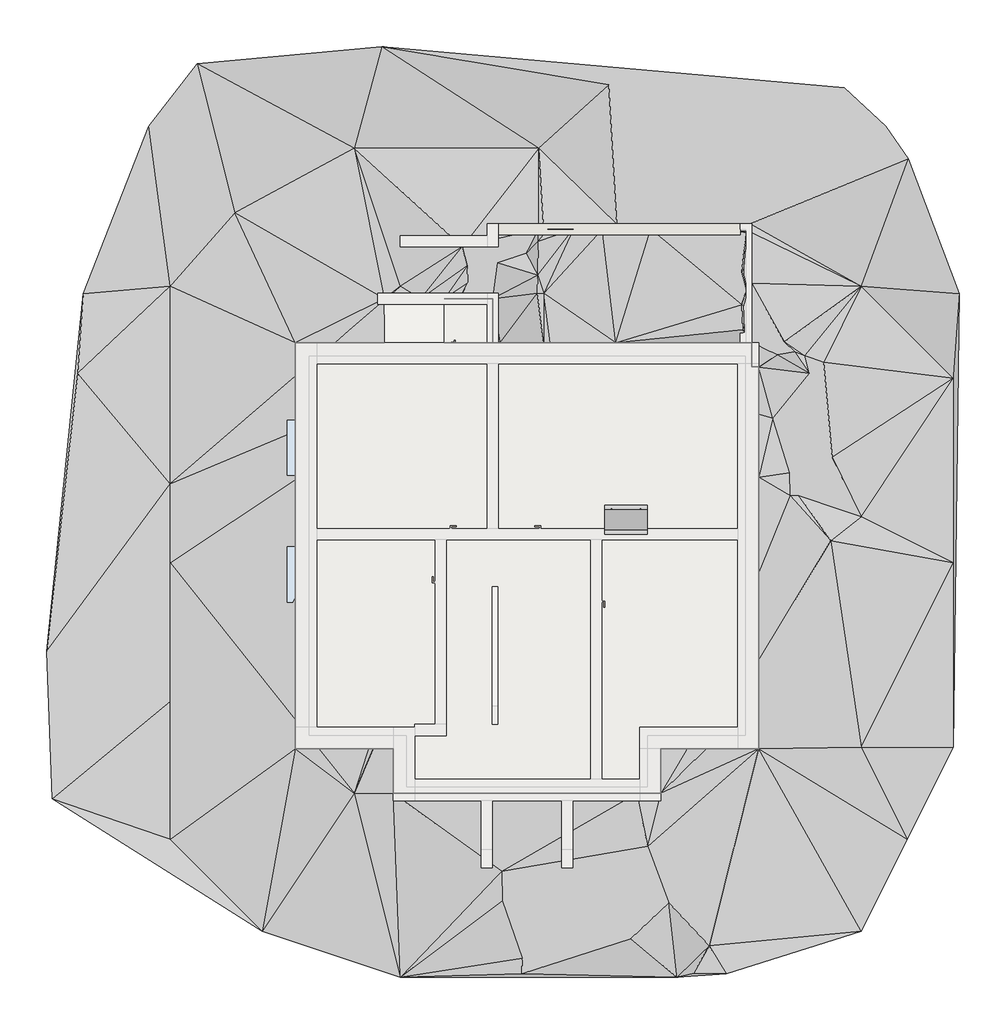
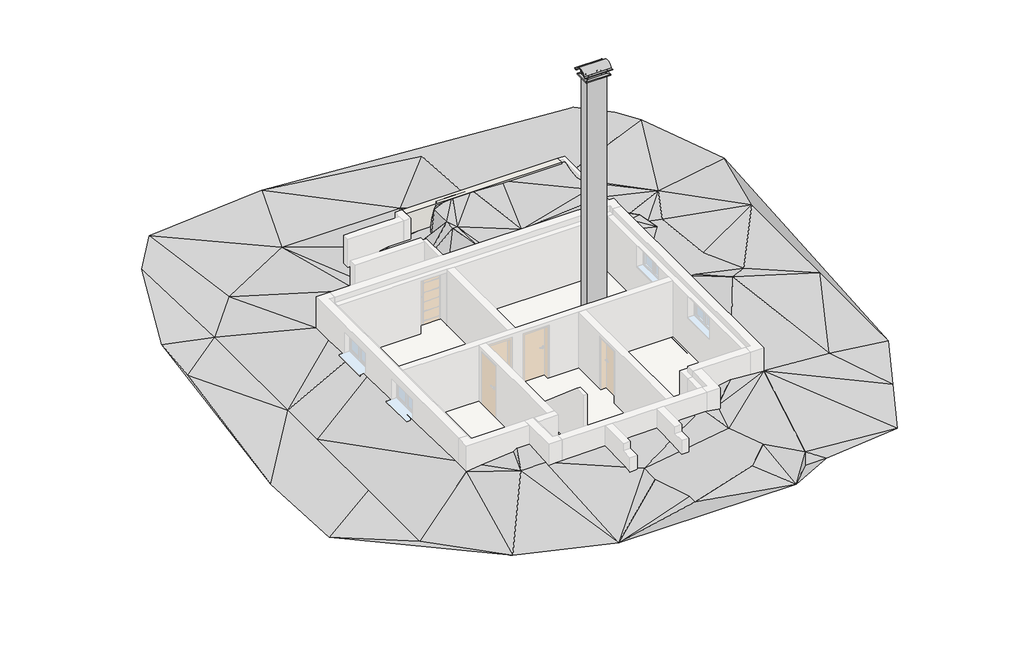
# Not in any storey, part 2 of 2: 8 footings, 4 proxies, 4 slabs, 1 wall.
"""IFC4 building model written with IfcOpenShell, lengths in millimetres."""

from ifc_helpers import new_model, si_unit, frame, origin, place, context, project, spatial, polyline, outline, extrude, faceted_brep, triangles, transform, mapped, element, save
from components import proxy_360_x_650_x_6000_d_140_bfd82147

model = new_model("IFC4")

# Units and contexts
model_context = context("Model", 3, world=origin())
ifc_project = project(units=[si_unit("LENGTHUNIT", "METRE", prefix="MILLI")], contexts=[model_context])

# Site, building
site = spatial("IfcSite", under=ifc_project)
building = spatial("IfcBuilding", under=site)

# Proxies
placement = place(None, origin())
element("IfcBuildingElementProxy", 1, Name="Building Element Proxy", at=placement, inside=building, context=model_context, shape_type="Tessellation", body=[
    triangles([(-3006.145578, -3000.0000229, -246.6645224), (-6.1454637, -4000.0000305, -246.6645224), (5993.8544907, -4000.0000305, -246.6645224), (7061.4567673, -3919.3439072, 253.3354633), (9993.8551025, -3000.0000229, -246.6645224), (10993.8545288, -1000.0000076, -246.6645224), (11993.8539551, 1000.0000076, -246.6645224), (12126.3923767, 10842.9381592, 253.3354633), (11017.1356659, 13770.1420441, 253.3354633), (10524.1332001, 14478.83367, 253.3354633), (9630.5656494, 15310.7759125, 253.3354633), (-414.3653326, 16204.3434631, 253.3354633), (-4420.0127655, 15834.5916138, 253.3354633), (-5467.6435867, 14478.83367, 253.3354633), (-6885.0262573, 10842.9381592, 253.3354633), (-7686.1558456, 3078.1455437, 253.3354633), (-7562.9052292, -126.3724099, 253.3354633), (-360.00001, 10735.0005615, -17.456672), (-315.0049367, 10735.0005615, -15.2369356), (431.2891906, 10735.0005615, 52.2442811), (950.5286087, 10735.0005615, 154.1045835), (1456.3643028, 10735.0005615, 253.3354633), (1995.0000298, 10735.0005615, 253.3354633), (1995.0000298, 9900.8386871, 253.3354633), (1995.0000298, 9787.696756, 239.0034711), (1995.0000298, 9774.9998566, 239.6115008), (2015.9581982, 9774.9998566, 241.5065705), (2076.2566978, 9774.9998566, 253.3354633), (2107.9412464, 9774.9998566, 253.3354633), (2159.8415668, 9774.9998566, 290.0020297), (3090.5494377, 9774.9998566, 993.5483665), (3108.854425, 9774.9998566, 993.5483665), (3250.6015869, 9774.9998566, 996.9465603), (4668.7504898, 9774.9998566, 981.9242214), (7614.9997238, 9774.9998566, 257.4633182), (7614.9997238, 9249.9999252, 198.8656776), (7773.6202744, 9249.9999252, 172.0674587), (7774.9998413, 9249.9999252, 172.1872188), (7774.9998413, 9244.8932602, 171.2769728), (7774.9998413, 8227.3228134, 60.2049325), (7774.9998413, 8161.2344055, 63.3962757), (7774.9998413, 6854.0827972, 126.5171322), (7774.9998413, 4790.6776405, 55.418733), (7774.9998413, 2879.2989601, 253.3354633), (7774.9998413, 964.9999638, 166.4804451), (6628.3320419, 964.9999638, 253.3354633), (6220.6929703, 964.9999638, 182.8688161), (5649.9998978, 964.9999638, 278.065004), (5649.9998978, 0.0, 244.8141629), (5120.6595337, 0.0, 333.1124434), (-160.0000085, 0.0, 264.3531047), (-160.0000085, 964.9999638, 333.9137389), (-593.1475522, 964.9999638, 328.2737125), (-696.1192102, 964.9999638, 253.3354633), (-1778.1455338, 964.9999638, 156.8354669), (-2285.000061, 964.9999638, 93.478651), (-2285.000061, 1598.5681229, 93.478651), (-2285.000061, 6801.704599, -55.6035918), (-2285.000061, 7858.2906876, -55.6035918), (-2285.000061, 9044.7531509, -112.4225165), (-2285.000061, 9774.9998566, -112.4225165), (-1433.892128, 9774.9998566, -70.4348904), (-360.00001, 9774.9998566, 26.6683032), (-360.00001, 10696.3947784, -17.456672), (-1006.1454901, 0.0, 253.3354633), (9993.8551025, 1000.0000076, 0.0), (9993.8551025, 6000.0000458, 0.0), (-6.1454637, 10999.9995026, 0.0), (2993.8544678, 14000.0001068, -246.6645224), (-1006.1454901, 14000.0001068, -246.6645224), (-3596.3679817, 12597.6647736, -246.6645224), (-5006.1455933, 10999.9995026, -246.6645224), (-5006.1455933, 6710.0229858, -246.6645224), (-5006.1455933, 5000.0000381, -246.6645224), (-5006.1455933, 2000.0000153, -246.6645224), (-5006.1455933, -1000.0000076, -246.6645224), (11993.8539551, 5000.0000381, -246.6645224), (11993.8539551, 9000.0000687, -246.6645224), (9993.8551025, 10999.9995026, -246.6645224), (5993.8544907, 12999.9995178, 253.3354633), (-7008.2768738, 9117.4289474, 253.3354633), (4515.6621597, 15372.4012207, 253.3354633), (2988.8544823, 12234.9997009, 253.3354633), (7614.9997238, 12160.4635529, 253.3354633), (7631.7870712, 9774.9998566, 253.3354633), (1338.8544697, 10855.0002136, 253.3354633), (1338.8544697, 11854.9996399, 253.3354633), (2988.8544823, 11975.0004547, 950.0000072), (3108.854425, 12115.0000488, 950.0000072), (7492.3263977, 12022.9533417, 950.0000072), (3108.854425, 10855.0002136, 950.0000072), (7423.7282593, 10057.5802826, 950.0000072), (7404.1846848, 10597.2531555, 950.0000072), (7495.0000717, 10924.9994293, 950.0000072), (7404.1846848, 11304.0809418, 950.0000072), (7441.4963608, 11756.530069, 950.0000072), (7495.0000717, 12160.4635529, 950.0000072), (7028.1617065, 12234.9997009, 950.0000072), (6305.688945, 12234.9997009, 950.0000072), (5429.9644913, 12234.9997009, 950.0000072), (4379.0949142, 12234.9997009, 1000.0000076), (3744.1947144, 12234.9997009, 1000.0000076), (3196.8667854, 12234.9997009, 1000.0000076), (2977.935672, 11238.4012299, 950.0000072), (2966.9892471, 10855.0002136, 950.0000072), (3098.3477989, 12355.0005157, 253.3354633), (3744.1947144, 12355.0005157, 253.3354633), (4685.5985893, 12355.0005157, 253.3354633), (5473.7507721, 12355.0005157, 253.3354633), (6535.566774, 12355.0005157, 253.3354633), (6152.4372528, 12355.0005157, 253.3354633), (7028.1617065, 12355.0005157, 253.3354633), (7586.4357697, 12355.0005157, 253.3354633), (7614.9997238, 11692.0979553, 253.3354633), (7614.9997238, 11065.0001862, 253.3354633), (7585.764299, 10444.7426971, 253.3354633), (7614.9997238, 9973.5807587, 253.3354633), (1895.1187717, 11605.1137299, 253.3354633), (1445.4177326, 11446.3850464, 253.3354633), (1456.3643028, 11074.2031128, 253.3354633), (1456.3643028, 10855.0002136, 253.3354633), (1686.9199974, 11605.992746, 253.3354633), (1968.3868286, 11433.7613983, 253.3354633), (2726.225164, 11721.4705811, 253.3354633), (2099.5658855, 11506.7139221, 253.3354633), (2190.9571095, -1694.2166451, 253.3354633), (2199.5246098, -2336.860849, 253.3354633), (2689.1108597, -3274.9166725, 253.3354633), (2636.3597191, -3586.0633781, 253.3354633), (2632.0335297, -3918.1785713, 253.3354633), (5361.3227509, -1150.202104, 253.3354633), (5815.377594, -2377.8185234, 253.3354633), (6698.8341339, -3312.1678871, 253.3354633), (6356.5811874, -3904.5529495, 253.3354633), (4998.5309418, -3156.7753372, 253.3354633), (3926.7071205, -2866.923262, 253.3354633), (3578.0281128, -2977.3252441, 253.3354633), (8642.3195755, 6453.7310715, 0.0), (8441.3254486, 6956.0079712, 0.0), (9331.5658768, 5477.8993561, 253.3354633), (9369.5280945, 7295.7924637, 0.0), (8073.9217117, 8138.425914, 0.0), (8450.8545181, 6454.1856949, 0.0), (8864.3833466, 9109.9997498, 0.0), (8170.5448837, 9512.647847, 253.3354633), (9004.4032883, 9330.2990936, 0.0), (9186.7886673, 9354.9877029, 0.0), (8327.129512, 9797.0833923, 253.3354633), (8767.2892731, 9493.1920578, 0.0), (8548.4846054, 9575.4945923, 253.3354633)], [[75, 76, 56], [1, 76, 17], [17, 75, 16], [75, 17, 76], [76, 1, 56], [56, 65, 55], [65, 56, 1], [54, 55, 65], [65, 53, 54], [56, 57, 75], [1, 2, 65], [75, 57, 74], [16, 74, 73], [16, 75, 74], [72, 81, 73], [73, 81, 16], [74, 58, 73], [16, 81, 15], [59, 60, 73], [73, 60, 72], [18, 61, 62], [73, 58, 59], [57, 58, 74], [72, 60, 61], [2, 126, 51], [126, 2, 127], [52, 53, 51], [53, 65, 51], [51, 126, 50], [51, 65, 2], [129, 127, 2], [129, 130, 137], [127, 128, 137], [128, 127, 129], [137, 128, 129], [127, 137, 126], [130, 135, 137], [129, 2, 130], [2, 3, 130], [27, 25, 26], [28, 24, 27], [29, 30, 24], [31, 32, 91], [31, 105, 30], [28, 29, 24], [62, 63, 64], [91, 33, 34], [91, 32, 33], [18, 71, 61], [62, 64, 18], [68, 18, 19], [72, 15, 81], [21, 22, 86], [20, 21, 119], [86, 22, 121], [86, 121, 120], [19, 20, 68], [121, 23, 120], [120, 21, 86], [72, 71, 14], [71, 18, 70], [71, 13, 14], [13, 71, 70], [13, 70, 12], [61, 71, 72], [72, 14, 15], [119, 87, 20], [119, 21, 120], [70, 69, 12], [68, 20, 87], [87, 119, 122], [69, 70, 87], [120, 123, 119], [87, 70, 68], [68, 70, 18], [121, 22, 23], [24, 30, 23], [23, 123, 120], [118, 123, 125], [123, 122, 119], [23, 125, 123], [104, 23, 105], [105, 23, 30], [104, 125, 23], [104, 105, 91], [104, 91, 102], [118, 125, 124], [31, 91, 105], [24, 25, 27], [118, 122, 123], [124, 125, 104], [83, 87, 118], [83, 118, 124], [83, 106, 69], [89, 83, 88], [69, 87, 83], [88, 83, 124], [104, 88, 124], [87, 122, 118], [103, 106, 83], [103, 89, 102], [103, 107, 106], [107, 103, 102], [107, 102, 101], [106, 107, 69], [89, 88, 102], [103, 83, 89], [104, 102, 88], [69, 107, 108], [102, 91, 101], [12, 69, 82], [136, 126, 137], [136, 135, 131], [136, 137, 135], [131, 50, 126], [131, 45, 49], [131, 135, 132], [50, 131, 49], [3, 4, 134], [3, 133, 132], [133, 3, 134], [133, 134, 4], [46, 49, 45], [132, 45, 131], [3, 132, 135], [130, 3, 135], [133, 45, 132], [47, 48, 49], [47, 49, 46], [41, 42, 142], [36, 37, 85], [42, 43, 143], [5, 133, 4], [140, 44, 66], [140, 67, 138], [77, 67, 140], [66, 44, 45], [140, 143, 43], [6, 66, 45], [66, 7, 77], [7, 66, 6], [78, 77, 8], [66, 77, 140], [6, 45, 5], [45, 133, 5], [67, 77, 78], [144, 39, 142], [142, 40, 41], [142, 39, 40], [145, 38, 39], [142, 139, 141], [42, 139, 142], [138, 141, 139], [138, 143, 140], [147, 144, 141], [144, 142, 141], [141, 138, 67], [145, 39, 144], [67, 78, 141], [139, 143, 138], [143, 139, 42], [78, 147, 141], [77, 7, 8], [43, 44, 140], [37, 38, 85], [100, 34, 93], [93, 34, 92], [93, 95, 99], [34, 100, 101], [93, 94, 95], [101, 91, 34], [95, 114, 96], [116, 93, 92], [98, 96, 90], [114, 90, 96], [84, 97, 90], [98, 95, 96], [94, 115, 95], [116, 94, 93], [97, 98, 90], [108, 100, 109], [100, 108, 101], [108, 80, 82], [80, 108, 109], [111, 80, 109], [11, 82, 80], [109, 100, 111], [82, 69, 108], [99, 98, 110], [98, 99, 95], [110, 112, 80], [110, 111, 99], [112, 110, 98], [110, 80, 111], [98, 97, 112], [99, 111, 100], [100, 93, 99], [112, 113, 80], [112, 97, 113], [108, 107, 101], [36, 85, 35], [34, 35, 92], [148, 117, 85], [85, 117, 35], [85, 145, 148], [117, 116, 92], [146, 147, 149], [147, 146, 144], [148, 150, 149], [150, 148, 145], [145, 144, 150], [79, 148, 149], [149, 147, 79], [144, 149, 150], [145, 85, 38], [117, 148, 116], [115, 114, 95], [116, 148, 115], [97, 84, 113], [90, 114, 84], [84, 114, 79], [113, 84, 79], [115, 79, 114], [94, 116, 115], [79, 8, 9], [115, 148, 79], [10, 11, 113], [113, 9, 10], [113, 79, 9], [78, 79, 147], [113, 11, 80], [78, 8, 79], [117, 92, 35], [146, 149, 144], [82, 11, 12], [136, 131, 126]], closed=False),
])
element("IfcBuildingElementProxy", 2, Name="Building Element Proxy", at=placement, inside=building, context=model_context, shape_type="Tessellation", body=[
    triangles([(950.5286087, 9774.9998566, -1201.1595314), (950.5286087, 9774.9998566, -947.8240499), (1995.0000298, 9774.9998566, -1201.1595314), (1995.0000298, 9774.9998566, -947.8240499)], [[1, 4, 2], [1, 3, 4]], closed=False),
    triangles([(1995.0000298, 9774.9998566, -1201.1595314), (1995.0000298, 9774.9998566, 239.6115008), (2015.9581982, 9774.9998566, -1201.1595314), (2015.9581982, 9774.9998566, 241.5065705), (2076.2566978, 9774.9998566, -1201.1595314), (2076.2566978, 9774.9998566, 253.3354633), (2107.9412464, 9774.9998566, -1201.1595314), (2107.9412464, 9774.9998566, 253.3354633), (2159.8415668, 9774.9998566, -1201.1595314), (2159.8415668, 9774.9998566, 290.0020297), (3090.5494377, 9774.9998566, -1201.1595314), (3090.5494377, 9774.9998566, 993.5483665), (3108.854425, 9774.9998566, -1201.1595314), (3108.854425, 9774.9998566, 993.5483665), (3250.6015869, 9774.9998566, -1201.1595314), (3250.6015869, 9774.9998566, 996.9465603), (4668.7504898, 9774.9998566, -1201.1595314), (4668.7504898, 9774.9998566, 981.9242214), (7614.9997238, 9774.9998566, -1201.1595314), (7614.9997238, 9774.9998566, 257.4633182), (7614.9997238, 9249.9999252, -1201.1595314), (7614.9997238, 9249.9999252, 198.8656776), (7773.6202744, 9249.9999252, -1201.1595314), (7773.6202744, 9249.9999252, 172.0674587), (7774.9998413, 9249.9999252, -1201.1595314), (7774.9998413, 9249.9999252, 172.1872188), (7774.9998413, 9244.8932602, -1201.1595314), (7774.9998413, 9244.8932602, 171.2769728), (7774.9998413, 8227.3228134, -1201.1595314), (7774.9998413, 8227.3228134, 60.2049325), (7774.9998413, 8161.2344055, -1201.1595314), (7774.9998413, 8161.2344055, 63.3962757), (7774.9998413, 6854.0827972, -1201.1595314), (7774.9998413, 6854.0827972, 126.5171322), (7774.9998413, 4790.6776405, -1201.1595314), (7774.9998413, 4790.6776405, 55.418733), (7774.9998413, 2879.2989601, -1201.1595314), (7774.9998413, 2879.2989601, 253.3354633), (7774.9998413, 964.9999638, -1201.1595314), (7774.9998413, 964.9999638, 166.4804451), (6628.3320419, 964.9999638, -1201.1595314), (6628.3320419, 964.9999638, 253.3354633), (6220.6929703, 964.9999638, -1201.1595314), (6220.6929703, 964.9999638, 182.8688161), (5649.9998978, 964.9999638, -1201.1595314), (5649.9998978, 964.9999638, 278.065004), (5649.9998978, 0.0, -1201.1595314), (5649.9998978, 0.0, 244.8141629), (5120.6595337, 0.0, -1201.1595314), (5120.6595337, 0.0, 333.1124434), (-160.0000085, 0.0, -1201.1595314), (-160.0000085, 0.0, 264.3531047), (-160.0000085, 964.9999638, -1201.1595314), (-160.0000085, 964.9999638, 333.9137389), (-593.1475522, 964.9999638, -1201.1595314), (-593.1475522, 964.9999638, 328.2737125), (-696.1192102, 964.9999638, -1201.1595314), (-696.1192102, 964.9999638, 253.3354633), (-1778.1455338, 964.9999638, -1201.1595314), (-1778.1455338, 964.9999638, 156.8354669), (-2285.000061, 964.9999638, -1201.1595314), (-2285.000061, 964.9999638, 93.478651), (-2285.000061, 1598.5681229, -1201.1595314), (-2285.000061, 1598.5681229, 93.478651), (-2285.000061, 6801.704599, -1201.1595314), (-2285.000061, 6801.704599, -55.6035918), (-2285.000061, 7858.2906876, -1201.1595314), (-2285.000061, 7858.2906876, -55.6035918), (-2285.000061, 9044.7531509, -1201.1595314), (-2285.000061, 9044.7531509, -112.4225165), (-2285.000061, 9774.9998566, -1201.1595314), (-2285.000061, 9774.9998566, -112.4225165), (-1433.892128, 9774.9998566, -1201.1595314), (-1433.892128, 9774.9998566, -70.4348904), (-360.00001, 9774.9998566, -1201.1595314), (-360.00001, 9774.9998566, 26.6683032)], [[1, 4, 2], [1, 3, 4], [3, 6, 4], [3, 5, 6], [5, 8, 6], [5, 7, 8], [7, 10, 8], [7, 9, 10], [9, 12, 10], [9, 11, 12], [11, 14, 12], [11, 13, 14], [13, 16, 14], [13, 15, 16], [15, 18, 16], [15, 17, 18], [17, 20, 18], [17, 19, 20], [19, 22, 20], [19, 21, 22], [21, 24, 22], [21, 23, 24], [23, 26, 24], [23, 25, 26], [25, 28, 26], [25, 27, 28], [27, 30, 28], [27, 29, 30], [29, 32, 30], [29, 31, 32], [31, 34, 32], [31, 33, 34], [33, 36, 34], [33, 35, 36], [35, 38, 36], [35, 37, 38], [37, 40, 38], [37, 39, 40], [39, 42, 40], [39, 41, 42], [41, 44, 42], [41, 43, 44], [43, 46, 44], [43, 45, 46], [45, 48, 46], [45, 47, 48], [47, 50, 48], [47, 49, 50], [49, 52, 50], [49, 51, 52], [51, 54, 52], [51, 53, 54], [53, 56, 54], [53, 55, 56], [55, 58, 56], [55, 57, 58], [57, 60, 58], [57, 59, 60], [59, 62, 60], [59, 61, 62], [61, 64, 62], [61, 63, 64], [63, 66, 64], [63, 65, 66], [65, 68, 66], [65, 67, 68], [67, 70, 68], [67, 69, 70], [69, 72, 70], [69, 71, 72], [71, 74, 72], [71, 73, 74], [73, 76, 74], [73, 75, 76]], closed=False),
    triangles([(7614.9997238, 9774.9998566, -1201.1595314), (-2285.000061, 9774.9998566, -1201.1595314), (-2285.000061, 964.9999638, -1201.1595314), (-160.0000085, 964.9999638, -1201.1595314), (-160.0000085, 0.0, -1201.1595314), (5649.9998978, 0.0, -1201.1595314), (5649.9998978, 964.9999638, -1201.1595314), (7774.9998413, 964.9999638, -1201.1595314), (7774.9998413, 8161.2344055, -1201.1595314), (7774.9998413, 9249.9999252, -1201.1595314), (7614.9997238, 9249.9999252, -1201.1595314)], [[9, 2, 4], [4, 2, 3], [7, 4, 5], [9, 4, 7], [5, 6, 7], [8, 9, 7], [9, 11, 2], [10, 11, 9], [1, 2, 11]], closed=False),
])
element("IfcBuildingElementProxy", 3, Name="Building Element Proxy", at=placement, inside=building, context=model_context, shape_type="Tessellation", body=[
    triangles([(950.5286087, 10735.0005615, -947.8240499), (950.5286087, 10735.0005615, 154.1045835), (1456.3643028, 10735.0005615, -947.8240499), (1456.3643028, 10735.0005615, 253.3354633), (1995.0000298, 10735.0005615, -947.8240499), (1995.0000298, 10735.0005615, 253.3354633), (1995.0000298, 9900.8386871, -947.8240499), (1995.0000298, 9900.8386871, 253.3354633), (1995.0000298, 9787.696756, -947.8240499), (1995.0000298, 9787.696756, 239.0034711), (1995.0000298, 9774.9998566, -947.8240499), (1995.0000298, 9774.9998566, 239.6115008)], [[1, 4, 2], [1, 3, 4], [3, 6, 4], [3, 5, 6], [5, 8, 6], [5, 7, 8], [7, 10, 8], [7, 9, 10], [9, 12, 10], [9, 11, 12]], closed=False),
    triangles([(950.5286087, 10735.0005615, -947.8240499), (950.5286087, 9774.9998566, -947.8240499), (1995.0000298, 9774.9998566, -947.8240499), (1995.0000298, 10735.0005615, -947.8240499)], [[1, 2, 3], [3, 4, 1]], closed=False),
])
proxy_360_x_650_x_6000_d_140_shape = proxy_360_x_650_x_6000_d_140_bfd82147(model_context)
element("IfcBuildingElementProxy", 4, Name="Kamin-03 zweizügig : 360 x 650 x 6000 D 140", ObjectType="Kamin-03 zweizügig : 360 x 650 x 6000 D 140", at=placement, inside=building, context=model_context, shape_type="MappedRepresentation", body=[
    mapped(proxy_360_x_650_x_6000_d_140_shape, transform((4890.0, 5931.2341615, -1200.0), x_axis=(1.0, 0.0, 0.0), y_axis=(0.0, 1.0, 0.0), z_axis=(0.0, 0.0, 1.0))),
])

# Footings
element("IfcFooting", 5, ObjectType="STB 440 x 300", at=placement, inside=building, context=model_context, shape_type="Brep", body=[
    faceted_brep([(7715.0, 9775.0, -1200.0), (7275.0, 9775.0, -1200.0), (7275.0, 9775.0, -1500.0), (7715.0, 9775.0, -1500.0), (7715.0, 12455.0, -1200.0), (7275.0, 12455.0, -1200.0), (7275.0, 12015.0, -1200.0), (7275.0, 12455.0, -1500.0), (7275.0, 12015.0, -1500.0), (7715.0, 12455.0, -1500.0)], [[[0, 1, 2, 3]], [[0, 4, 5, 6, 1]], [[2, 1, 6, 5, 7, 8]], [[3, 2, 8, 7, 9]], [[0, 3, 9, 4]], [[5, 4, 9, 7]]]),
])
element("IfcFooting", 6, ObjectType="STB 440 x 300", at=placement, inside=building, context=model_context, shape_type="Brep", body=[
    faceted_brep([(2215.0, 9775.0, -1200.0), (1775.0, 9775.0, -1200.0), (1775.0, 9775.0, -1500.0), (2215.0, 9775.0, -1500.0), (2215.0, 10955.0, -1200.0), (1775.0, 10955.0, -1200.0), (1775.0, 10515.0, -1200.0), (1775.0, 10955.0, -1500.0), (1775.0, 10515.0, -1500.0), (2215.0, 10955.0, -1500.0)], [[[0, 1, 2, 3]], [[0, 4, 5, 6, 1]], [[2, 1, 6, 5, 7, 8]], [[3, 2, 8, 7, 9]], [[0, 3, 9, 4]], [[5, 4, 9, 7]]]),
])
element("IfcFooting", 7, ObjectType="STB 440 x 300", at=placement, inside=building, context=model_context, shape_type="SweptSolid", body=[
    extrude(outline(polyline([(-500.0, 10515.0), (-500.0, 10955.0), (1775.0, 10955.0), (1775.0, 10515.0), (-500.0, 10515.0)])), frame((0.0, 0.0, -1500.0), z_axis=(0.0, 0.0, 1.0), x_axis=(1.0, 0.0, 0.0)), (0.0, 0.0, 1.0), 300.0),
])
element("IfcFooting", 8, ObjectType="STB 440 x 300", at=placement, inside=building, context=model_context, shape_type="SweptSolid", body=[
    extrude(outline(polyline([(1650.0, -160.0), (2090.0, -160.0), (2090.0, -1620.0), (1650.0, -1620.0), (1650.0, -160.0)])), frame((0.0, 0.0, -800.0), z_axis=(0.0, 0.0, 1.0), x_axis=(1.0, 0.0, 0.0)), (0.0, 0.0, 1.0), 300.0),
])
element("IfcFooting", 9, ObjectType="STB 440 x 300", at=placement, inside=building, context=model_context, shape_type="Brep", body=[
    faceted_brep([(1775.0, 12455.0, -1200.0), (1775.0, 12195.0, -1200.0), (1775.0, 11755.0, -1200.0), (2215.0, 11755.0, -1200.0), (2215.0, 12015.0, -1200.0), (2215.0, 12455.0, -1200.0), (2215.0, 12455.0, -1500.0), (2215.0, 11755.0, -1500.0), (2215.0, 12015.0, -1500.0), (1775.0, 12455.0, -1500.0), (1775.0, 11755.0, -1500.0), (1775.0, 12195.0, -1500.0)], [[[0, 1, 2, 3, 4, 5]], [[6, 5, 4, 3, 7, 8]], [[9, 6, 8, 7, 10, 11]], [[0, 9, 11, 10, 2, 1]], [[3, 2, 10, 7]], [[0, 5, 6, 9]]]),
])
element("IfcFooting", 10, ObjectType="STB 440 x 300", at=placement, inside=building, context=model_context, shape_type="SweptSolid", body=[
    extrude(outline(polyline([(-5.0, 11755.0), (-5.0, 12195.0), (1775.0, 12195.0), (1775.0, 11755.0), (-5.0, 11755.0)])), frame((0.0, 0.0, -1500.0), z_axis=(0.0, 0.0, 1.0), x_axis=(1.0, 0.0, 0.0)), (0.0, 0.0, 1.0), 300.0),
])
element("IfcFooting", 11, ObjectType="STB 440 x 300", at=placement, inside=building, context=model_context, shape_type="SweptSolid", body=[
    extrude(outline(polyline([(7275.0, 12455.0), (7275.0, 12015.0), (2215.0, 12015.0), (2215.0, 12455.0), (7275.0, 12455.0)])), frame((0.0, 0.0, -1500.0), z_axis=(0.0, 0.0, 1.0), x_axis=(1.0, 0.0, 0.0)), (0.0, 0.0, 1.0), 300.0),
])
element("IfcFooting", 12, ObjectType="STB 440 x 300", at=placement, inside=building, context=model_context, shape_type="SweptSolid", body=[
    extrude(outline(polyline([(3400.0, -160.0), (3840.0, -160.0), (3840.0, -1620.0), (3400.0, -1620.0), (3400.0, -160.0)])), frame((0.0, 0.0, -800.0), z_axis=(0.0, 0.0, 1.0), x_axis=(1.0, 0.0, 0.0)), (0.0, 0.0, 1.0), 300.0),
])

# Slabs
element("IfcSlab", 13, ObjectType="STB 300", at=placement, inside=building, context=model_context, shape_type="Brep", body=[
    faceted_brep([(-2225.0, 9715.0, -1500.0), (915.0, 9715.0, -1500.0), (915.0, 10615.0, -1500.0), (1875.0, 10615.0, -1500.0), (1875.0, 9715.0, -1500.0), (7715.0, 9715.0, -1500.0), (7715.0, 1025.0, -1500.0), (5590.0, 1025.0, -1500.0), (5590.0, -100.0, -1500.0), (-100.0, -100.0, -1500.0), (-100.0, 1025.0, -1500.0), (-2225.0, 1025.0, -1500.0), (-2225.0, 9715.0, -1200.0), (915.0, 9715.0, -1200.0), (7715.0, 9715.0, -1200.0), (7715.0, 1025.0, -1200.0), (5590.0, 1025.0, -1200.0), (5590.0, -100.0, -1200.0), (-100.0, -100.0, -1200.0), (-100.0, 1025.0, -1200.0), (-2225.0, 1025.0, -1200.0), (1875.0, 9715.0, -1200.0), (1875.0, 10615.0, -1200.0), (915.0, 10615.0, -1200.0), (7250.0, 5500.0, -1200.0), (7250.0, 1490.0, -1200.0), (4365.0, 1490.0, -1200.0), (4365.0, 5500.0, -1200.0), (5807.5, 3495.0, -1260.0)], [[[0, 1, 2, 3, 4, 5, 6, 7, 8, 9, 10, 11]], [[1, 0, 12, 13]], [[6, 5, 14, 15]], [[7, 6, 15, 16]], [[8, 7, 16, 17]], [[9, 8, 17, 18]], [[10, 9, 18, 19]], [[11, 10, 19, 20]], [[0, 11, 20, 12]], [[20, 19, 18, 17, 16, 15, 14, 21, 22, 23, 13, 12], [24, 25, 26, 27]], [[26, 25, 28]], [[26, 28, 27]], [[25, 24, 28]], [[24, 27, 28]], [[2, 1, 13, 23]], [[3, 2, 23, 22]], [[4, 3, 22, 21]], [[5, 4, 21, 14]]]),
])
element("IfcSlab", 14, ObjectType="Sohle 1 mm", at=placement, inside=building, context=model_context, shape_type="SweptSolid", body=[
    extrude(outline(polyline([(7615.0, 9775.0), (7615.0, 9250.0), (7775.0, 9250.0), (7775.0, 8161.2341615), (7775.0, 965.0), (5650.0, 965.0), (5650.0, 0.0), (-160.0, 0.0), (-160.0, 965.0), (-2285.0, 965.0), (-2285.0, 9775.0), (7615.0, 9775.0)])), frame((0.0, 0.0, -1201.0), z_axis=(0.0, 0.0, 1.0), x_axis=(1.0, 0.0, 0.0)), (0.0, 0.0, 1.0), 1.0),
])
element("IfcSlab", 15, ObjectType="Sohle 1 mm", at=placement, inside=building, context=model_context, shape_type="SweptSolid", body=[
    extrude(outline(polyline([(950.5286031, 10735.0), (1995.0, 10735.0), (1995.0, 9775.0), (950.5286031, 9775.0), (950.5286031, 10735.0)])), frame((0.0, 0.0, -947.66453), z_axis=(0.0, 0.0, 1.0), x_axis=(1.0, 0.0, 0.0)), (0.0, 0.0, 1.0), 1.0),
])
element("IfcSlab", 16, ObjectType="Sohle 1 mm", at=placement, inside=building, context=model_context, shape_type="SweptSolid", body=[
    extrude(outline(polyline([(-1.3558891, -360.0), (-1201.3558891, 950.5286031), (-1200.0, 950.5286031), (0.0, -360.0), (-1.3558891, -360.0)])), frame((0.0, 9775.0, 0.0), z_axis=(0.0, 1.0, 0.0), x_axis=(0.0, 0.0, 1.0)), (0.0, 0.0, 1.0), 960.0),
])

# Wall
element("IfcWall", 17, ObjectType="Klinker 240", at=placement, inside=building, context=model_context, shape_type="Brep", body=[
    faceted_brep([(7375.0, 12355.0, -1200.0), (2115.0, 12355.0, -1200.0), (2115.0, 12355.0, 1000.0), (7375.0, 12355.0, 1000.0), (7375.0, 12115.0, -1200.0), (7375.0, 12115.0, 1000.0), (2115.0, 12115.0, 1000.0), (2115.0, 12115.0, -1200.0), (7375.0, 12235.0, 1000.0)], [[[0, 1, 2, 3]], [[4, 5, 6, 7]], [[1, 0, 4, 7]], [[3, 2, 6, 5, 8]], [[0, 3, 8, 5, 4]], [[2, 1, 7, 6]]]),
])

save(model, "model.ifc")
